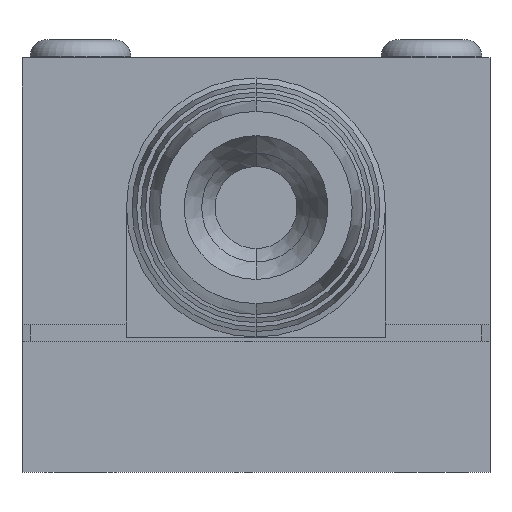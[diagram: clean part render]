
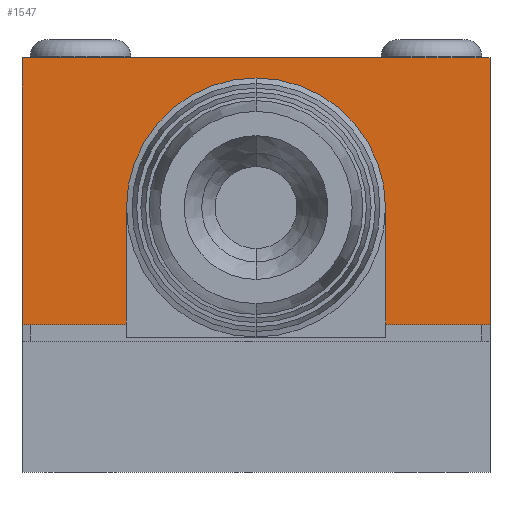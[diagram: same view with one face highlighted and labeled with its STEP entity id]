
A CAD part, front view. The second image highlights one B-rep face of the part: STEP entity #1547.
In plain terms, the highlighted planar face has unit normal (0, -1, 0).
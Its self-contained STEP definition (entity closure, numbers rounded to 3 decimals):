
#400 = ORIENTED_EDGE ( 'NONE', *, *, #1193, .F. ) ;
#401 = ORIENTED_EDGE ( 'NONE', *, *, #1595, .F. ) ;
#403 = ORIENTED_EDGE ( 'NONE', *, *, #1594, .T. ) ;
#404 = ORIENTED_EDGE ( 'NONE', *, *, #1591, .T. ) ;
#405 = ORIENTED_EDGE ( 'NONE', *, *, #1593, .F. ) ;
#406 = ORIENTED_EDGE ( 'NONE', *, *, #1592, .T. ) ;
#441 = VERTEX_POINT ( 'NONE', #5037 ) ;
#481 = VERTEX_POINT ( 'NONE', #5077 ) ;
#559 = VERTEX_POINT ( 'NONE', #5155 ) ;
#800 = CARTESIAN_POINT ( 'NONE',  ( -14., -22.525, 24.8 ) ) ;
#801 = CARTESIAN_POINT ( 'NONE',  ( -14., -22.525, 8.85 ) ) ;
#802 = CARTESIAN_POINT ( 'NONE',  ( 14., -22.525, 8.85 ) ) ;
#1069 = CIRCLE ( 'NONE', #3920, 4.75 ) ;
#1193 = EDGE_CURVE ( 'NONE', #441, #481, #1069, .T. ) ;
#1547 = ADVANCED_FACE ( 'NONE', ( #2036, #2031 ), #3149, .F. ) ;
#1591 = EDGE_CURVE ( 'NONE', #3994, #3995, #3368, .T. ) ;
#1592 = EDGE_CURVE ( 'NONE', #3993, #3994, #3371, .T. ) ;
#1593 = EDGE_CURVE ( 'NONE', #559, #3995, #3374, .T. ) ;
#1594 = EDGE_CURVE ( 'NONE', #559, #3993, #3377, .T. ) ;
#1595 = EDGE_CURVE ( 'NONE', #481, #441, #1721, .T. ) ;
#1721 = CIRCLE ( 'NONE', #1936, 4.75 ) ;
#1933 = VECTOR ( 'NONE', #3379, 1000. ) ;
#1935 = VECTOR ( 'NONE', #3376, 1000. ) ;
#1936 = AXIS2_PLACEMENT_3D ( 'NONE', #3367, #3380, #3381 ) ;
#1937 = VECTOR ( 'NONE', #3373, 1000. ) ;
#1938 = VECTOR ( 'NONE', #3370, 1000. ) ;
#2029 = AXIS2_PLACEMENT_3D ( 'NONE', #3150, #3151, #3152 ) ;
#2031 = FACE_BOUND ( 'NONE', #4878, .T. ) ;
#2036 = FACE_OUTER_BOUND ( 'NONE', #4880, .T. ) ;
#3149 = PLANE ( 'NONE',  #2029 ) ;
#3150 = CARTESIAN_POINT ( 'NONE',  ( 14., -22.525, 24.8 ) ) ;
#3151 = DIRECTION ( 'NONE',  ( 0., 1., 0. ) ) ;
#3152 = DIRECTION ( 'NONE',  ( 0., 0., 1. ) ) ;
#3367 = CARTESIAN_POINT ( 'NONE',  ( 0., -22.525, 15.85 ) ) ;
#3368 = LINE ( 'NONE', #3369, #1938 ) ;
#3369 = CARTESIAN_POINT ( 'NONE',  ( -14., -22.525, 8.85 ) ) ;
#3370 = DIRECTION ( 'NONE',  ( 1., 0., 0. ) ) ;
#3371 = LINE ( 'NONE', #3372, #1937 ) ;
#3372 = CARTESIAN_POINT ( 'NONE',  ( -14., -22.525, 24.8 ) ) ;
#3373 = DIRECTION ( 'NONE',  ( 0., 0., -1. ) ) ;
#3374 = LINE ( 'NONE', #3375, #1935 ) ;
#3375 = CARTESIAN_POINT ( 'NONE',  ( 14., -22.525, 24.8 ) ) ;
#3376 = DIRECTION ( 'NONE',  ( 0., 0., -1. ) ) ;
#3377 = LINE ( 'NONE', #3378, #1933 ) ;
#3378 = CARTESIAN_POINT ( 'NONE',  ( 14., -22.525, 24.8 ) ) ;
#3379 = DIRECTION ( 'NONE',  ( -1., 0., 0. ) ) ;
#3380 = DIRECTION ( 'NONE',  ( 0., -1., 0. ) ) ;
#3381 = DIRECTION ( 'NONE',  ( 0., 0., 1. ) ) ;
#3920 = AXIS2_PLACEMENT_3D ( 'NONE', #5729, #5736, #5737 ) ;
#3993 = VERTEX_POINT ( 'NONE', #800 ) ;
#3994 = VERTEX_POINT ( 'NONE', #801 ) ;
#3995 = VERTEX_POINT ( 'NONE', #802 ) ;
#4878 = EDGE_LOOP ( 'NONE', ( #401, #400 ) ) ;
#4880 = EDGE_LOOP ( 'NONE', ( #406, #404, #405, #403 ) ) ;
#5037 = CARTESIAN_POINT ( 'NONE',  ( 0., -22.525, 11.1 ) ) ;
#5077 = CARTESIAN_POINT ( 'NONE',  ( 0., -22.525, 20.6 ) ) ;
#5155 = CARTESIAN_POINT ( 'NONE',  ( 14., -22.525, 24.8 ) ) ;
#5729 = CARTESIAN_POINT ( 'NONE',  ( 0., -22.525, 15.85 ) ) ;
#5736 = DIRECTION ( 'NONE',  ( 0., -1., 0. ) ) ;
#5737 = DIRECTION ( 'NONE',  ( 0., 0., 1. ) ) ;
